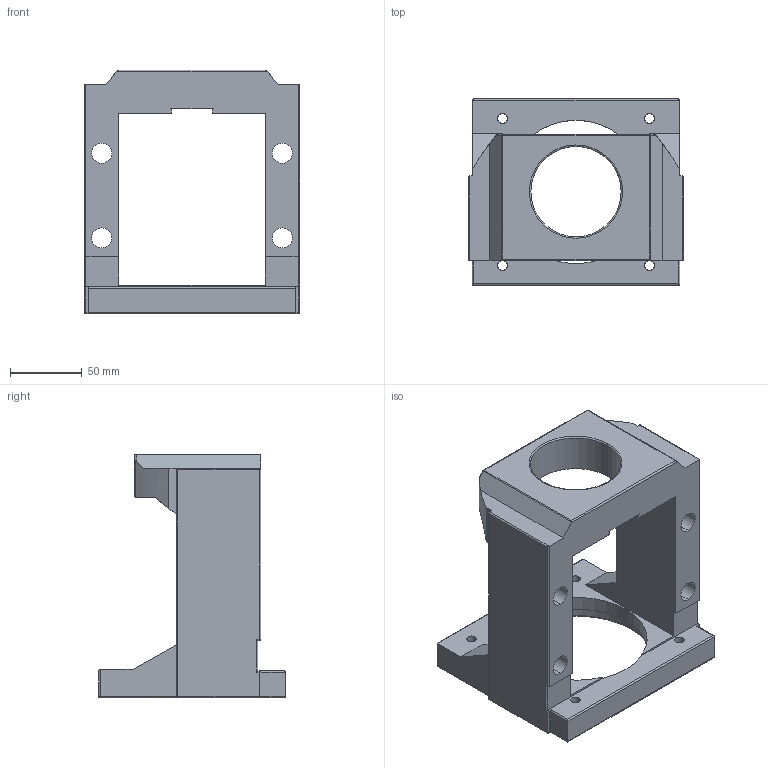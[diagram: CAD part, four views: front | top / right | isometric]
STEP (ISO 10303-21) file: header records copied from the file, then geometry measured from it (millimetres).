
FILE_DESCRIPTION (( 'STEP AP203' ), '1' );
FILE_NAME ('自化件傳動座內MBB25L-G本體.STEP', '2019-01-02T03:24:49', ( '' ), ( '' ), 'SwSTEP 2.0', 'SolidWorks 2018', '' );
FILE_SCHEMA (( 'CONFIG_CONTROL_DESIGN' ));
Length unit declared in the file: millimetre
Products named in the file (1): 自化件傳動座內MBB25L-G本體
Bounding box: 150 x 130 x 170 mm (x, y, z)
Volume: 758873.8 mm3; surface area: 122778.5 mm2
Topology: 1 solids, 1 shells, 167 faces, 421 edges, 246 vertices
Faces by surface type: cylinder 89, plane 42, cone 16, torus 12, sphere 8
Entity records: 4966 total; most frequent: CARTESIAN_POINT 953, DIRECTION 849, ORIENTED_EDGE 810, EDGE_CURVE 405, AXIS2_PLACEMENT_3D 318, VERTEX_POINT 246, VECTOR 213, LINE 213
